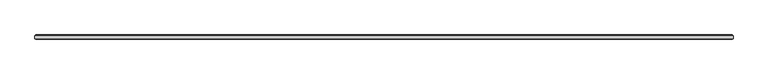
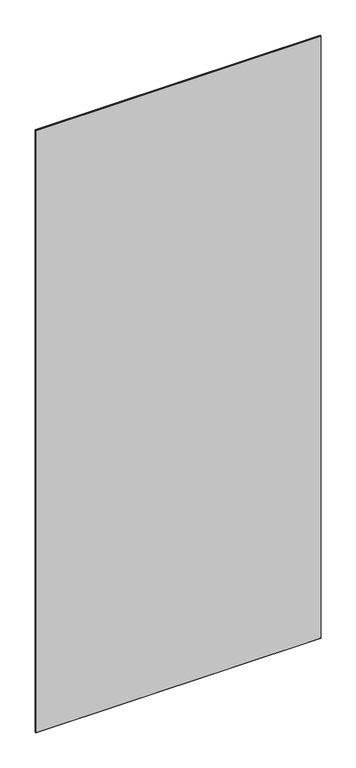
"""IFC4 building model written with IfcOpenShell, lengths in millimetres: plate geometry, 1-AMG-1-Панель одинарный витраж 8, 10 : Смещение 32 Толщина 8mm."""

import ifcopenshell
import ifcopenshell.guid

model = None  # the IFC model being written
_history = None  # IfcOwnerHistory: only IFC2X3 demands one
_inside = {}  # id of a spatial element -> (the spatial element, [elements in it])
_under = {}  # id of a project, library or spatial element -> (it, [spatial elements below it])
_declared = {}  # id of a project -> (the project, [libraries it declares])
_typed = {}  # id of a type object -> (the type object, [elements of that type])
_made_of = {}  # id of a material, layer set ... -> (it, [elements and type objects made of it])


def new_model(schema):
    """Start an empty IFC model of exactly this schema.

    Asked for "IFC4X3", IfcOpenShell would pick the latest addendum, in which some entities
    have other attributes; the version numbers below select the first issue.
    IFC2X3 requires an IfcOwnerHistory on every rooted entity: one is made here for all.
    """
    global model, _history
    if schema == "IFC4X3":
        model = ifcopenshell.file(schema_version=(4, 3, 0, 0))
    else:
        model = ifcopenshell.file(schema=schema)
    _inside.clear()
    _under.clear()
    _declared.clear()
    _typed.clear()
    _made_of.clear()
    _history = None
    if model.schema == "IFC2X3":
        org = make("IfcOrganization", Name="unknown")
        user = make(
            "IfcPersonAndOrganization",
            ThePerson=make("IfcPerson", FamilyName="unknown"),
            TheOrganization=org,
        )
        app = make(
            "IfcApplication",
            ApplicationDeveloper=org,
            Version="unknown",
            ApplicationFullName="unknown",
            ApplicationIdentifier="unknown",
        )
        _history = make(
            "IfcOwnerHistory",
            OwningUser=user,
            OwningApplication=app,
            ChangeAction="ADDED",
            CreationDate=0,
        )
    return model


def make(cls, **values):
    """One entity of the class cls with the attributes given. An attribute that is None is left unset."""
    return model.create_entity(
        cls, **{name: value for name, value in values.items() if value is not None}
    )


def rooted(cls, **values):
    """An entity with a GlobalId (a new one), such as an element, a storey or a relation."""
    return make(cls, GlobalId=ifcopenshell.guid.new(), OwnerHistory=_history, **values)


def si_unit(unit_type, name, prefix=None):
    """IfcSIUnit, for example si_unit("LENGTHUNIT", "METRE", prefix="MILLI")."""
    return make("IfcSIUnit", UnitType=unit_type, Prefix=prefix, Name=name)


def assignment(units):
    """IfcUnitAssignment: the units of a project."""
    return None if units is None else make("IfcUnitAssignment", Units=units)


def point(xyz):
    """IfcCartesianPoint."""
    return None if xyz is None else make("IfcCartesianPoint", Coordinates=xyz)


def direction(xyz):
    """IfcDirection."""
    return None if xyz is None else make("IfcDirection", DirectionRatios=xyz)


def frame(location, z_axis=None, x_axis=None):
    """IfcAxis2Placement3D, a coordinate frame: its origin and axes. An axis left out is left unset."""
    return make(
        "IfcAxis2Placement3D",
        Location=point(location),
        Axis=direction(z_axis),
        RefDirection=direction(x_axis),
    )


def origin():
    """The frame at (0, 0, 0) with its axes left unset."""
    return frame((0.0, 0.0, 0.0))


def place(relative_to, where):
    """IfcLocalPlacement: puts the frame where relative to a parent placement (None: the world)."""
    return make(
        "IfcLocalPlacement", PlacementRelTo=relative_to, RelativePlacement=where
    )


def context(
    kind, dimensions, precision=None, world=None, true_north=None, identifier=None
):
    """IfcGeometricRepresentationContext, for example the 3D "Model" context."""
    return make(
        "IfcGeometricRepresentationContext",
        ContextIdentifier=identifier,
        ContextType=kind,
        CoordinateSpaceDimension=dimensions,
        Precision=precision,
        WorldCoordinateSystem=world,
        TrueNorth=true_north,
    )


def project(units=None, contexts=None):
    """IfcProject with its units and contexts."""
    return rooted(
        "IfcProject",
        Name="project",
        RepresentationContexts=contexts,
        UnitsInContext=assignment(units),
    )


def spatial(cls, under=None, at=None, **own):
    """A site, building, storey or space (cls), placed at a placement, below another one or the project."""
    s = rooted(cls, ObjectPlacement=at, **own)
    if under is not None:
        _under.setdefault(under.id(), (under, []))[1].append(s)
    return s


def faces_of(points, faces, orient=None, outer=None):
    """IfcFace entities. A face is a list of loops; a loop is a list of indices into points, from 0.

    orient and outer hold one flag for each loop. By default every Orientation is true, the
    first loop of a face is its IfcFaceOuterBound and the others are IfcFaceBound.
    """
    made = []
    for i, loops in enumerate(faces):
        bounds = []
        for j, loop in enumerate(loops):
            is_outer = j == 0 if outer is None else outer[i][j]
            bounds.append(
                make(
                    "IfcFaceOuterBound" if is_outer else "IfcFaceBound",
                    Bound=make("IfcPolyLoop", Polygon=[points[k] for k in loop]),
                    Orientation=True if orient is None else orient[i][j],
                )
            )
        made.append(make("IfcFace", Bounds=bounds))
    return made


def faceted_brep(points, faces, orient=None, outer=None, voids=None):
    """IfcFacetedBrep: a solid bounded by flat faces; with voids (closed shells), ...WithVoids."""
    shared = [point(p) for p in points]
    hull = make("IfcClosedShell", CfsFaces=faces_of(shared, faces, orient, outer))
    if voids is None:
        return make("IfcFacetedBrep", Outer=hull)
    return make(
        "IfcFacetedBrepWithVoids",
        Outer=hull,
        Voids=[
            make(cls, CfsFaces=faces_of(shared, fs, o, b)) for cls, fs, o, b in voids
        ],
    )


def shape(context_of_items, identifier, shape_type, items):
    """IfcShapeRepresentation: the items that make up one representation, for example the "Body"."""
    return make(
        "IfcShapeRepresentation",
        ContextOfItems=context_of_items,
        RepresentationIdentifier=identifier,
        RepresentationType=shape_type,
        Items=items,
    )


def source(mapping_origin, context_of_items, identifier, shape_type, items):
    """IfcRepresentationMap: a shape defined once, which mapped items show again and again."""
    return make(
        "IfcRepresentationMap",
        MappingOrigin=mapping_origin,
        MappedRepresentation=shape(context_of_items, identifier, shape_type, items),
    )


def transform(
    local_origin,
    x_axis=None,
    y_axis=None,
    z_axis=None,
    scale=None,
    scale2=None,
    scale3=None,
    uniform=True,
):
    """IfcCartesianTransformationOperator3D, or its non-uniform kind. x_axis, y_axis, z_axis: its Axis1, 2, 3."""
    if uniform:
        return make(
            "IfcCartesianTransformationOperator3D",
            Axis1=direction(x_axis),
            Axis2=direction(y_axis),
            LocalOrigin=point(local_origin),
            Scale=scale,
            Axis3=direction(z_axis),
        )
    return make(
        "IfcCartesianTransformationOperator3DnonUniform",
        Axis1=direction(x_axis),
        Axis2=direction(y_axis),
        LocalOrigin=point(local_origin),
        Scale=scale,
        Axis3=direction(z_axis),
        Scale2=scale2,
        Scale3=scale3,
    )


def mapped(mapping_source, mapping_target):
    """IfcMappedItem: shows the shape of a source again, moved by a transform."""
    return make(
        "IfcMappedItem", MappingSource=mapping_source, MappingTarget=mapping_target
    )


def made_of(thing, what):
    """Note that an element or type object is made of a material, layer set ...; save() writes the relation."""
    if what is not None:
        _made_of.setdefault(what.id(), (what, []))[1].append(thing)
    return thing


def element(
    cls,
    number,
    at=None,
    inside=None,
    cuts=None,
    type_object=None,
    material=None,
    context=None,
    identifier="Body",
    shape_type=None,
    held_by="IfcProductDefinitionShape",
    body=None,
    shapes=None,
    **own,
):
    """One element of the class cls, such as IfcWall. Its Tag is "e" and its number.

    at: its placement. inside: the storey or other place that contains it. cuts: it is an
    opening in that element (IfcRelVoidsElement). A single representation is given by context,
    identifier, shape_type and body (its items); several are given by shapes. held_by: the class
    of the entity that holds the representations. save() writes the other relations.
    """
    e = rooted(cls, Tag="e%d" % number, ObjectPlacement=at, **own)
    if body is not None:
        shapes = [shape(context, identifier, shape_type, body)]
    if shapes is not None:
        e.Representation = make(held_by, Representations=shapes)
    if inside is not None:
        _inside.setdefault(inside.id(), (inside, []))[1].append(e)
    if cuts is not None:
        rooted(
            "IfcRelVoidsElement", RelatingBuildingElement=cuts, RelatedOpeningElement=e
        )
    if type_object is not None:
        _typed.setdefault(type_object.id(), (type_object, []))[1].append(e)
    return made_of(e, material)


def aggregate(whole, parts):
    """IfcRelAggregates: a whole, such as a stair, and the parts it consists of."""
    return rooted("IfcRelAggregates", RelatingObject=whole, RelatedObjects=parts)


def save(model, path):
    """Write the relations noted so far, then the file.

    IfcRelAggregates (storeys below a building ...), IfcRelContainedInSpatialStructure (elements
    in a storey), IfcRelDefinesByType, IfcRelAssociatesMaterial and IfcRelDeclares: one each for
    every whole, place, type object, material and project.
    """
    for whole, parts in _under.values():
        aggregate(whole, parts)
    for where, things in _inside.values():
        rooted(
            "IfcRelContainedInSpatialStructure",
            RelatedElements=things,
            RelatingStructure=where,
        )
    for kind, things in _typed.values():
        rooted("IfcRelDefinesByType", RelatedObjects=things, RelatingType=kind)
    for what, things in _made_of.values():
        rooted("IfcRelAssociatesMaterial", RelatedObjects=things, RelatingMaterial=what)
    for by, libraries in _declared.values():
        rooted("IfcRelDeclares", RelatingContext=by, RelatedDefinitions=libraries)
    model.write(path)


def plate_cf0eaa67(model_context):
    return source(origin(), model_context, "Body", "Brep", [
        faceted_brep([(614.1956302, 29.5038347, 2722.8), (614.1956302, 34.4961653, 2722.8), (-609.1956302, 34.4961653, 2722.8), (-609.1956302, 29.5038347, 2722.8), (614.1956302, 34.4961653, -7.0), (614.1956302, 29.5038347, -7.0), (-609.1956302, 29.5038347, -7.0), (-609.1956302, 34.4961653, -7.0), (-607.6917955, 36.0, 2721.2961653), (612.6917955, 36.0, 2721.2961653), (612.6917955, 36.0, -5.5039422), (-607.6917955, 36.0, -5.5039422), (612.6917955, 28.0, 2721.2961653), (-607.6917955, 28.0, 2721.2961653), (-607.6917955, 28.0, -5.4961653), (612.6917955, 28.0, -5.4961653)], [[[0, 1, 2, 3]], [[4, 5, 6, 7]], [[8, 9, 10, 11]], [[3, 2, 7, 6]], [[12, 13, 14, 15]], [[1, 0, 5, 4]], [[1, 4, 10, 9]], [[5, 0, 12, 15]], [[7, 2, 8, 11]], [[3, 6, 14, 13]], [[0, 3, 13, 12]], [[2, 1, 9, 8]], [[6, 5, 15, 14]], [[4, 7, 11, 10]]]),
    ])


if __name__ == "__main__":
    model = new_model("IFC4")
    model_context = context("Model", 3, world=origin())
    ifc_project = project(units=[si_unit("LENGTHUNIT", "METRE", prefix="MILLI")], contexts=[model_context])
    site = spatial("IfcSite", under=ifc_project)
    building = spatial("IfcBuilding", under=site)
    placement = place(None, origin())
    plate_shape = plate_cf0eaa67(model_context)
    element("IfcPlate", 1, ObjectType="1-AMG-1-Панель одинарный витраж 8, 10 : Смещение 32 Толщина 8mm", at=placement, inside=building, context=model_context, shape_type="MappedRepresentation", body=[
        mapped(plate_shape, transform((0.0, 0.0, 0.0), x_axis=(1.0, 0.0, 0.0), y_axis=(0.0, 1.0, 0.0), z_axis=(0.0, 0.0, 1.0))),
    ])
    save(model, "model.ifc")
